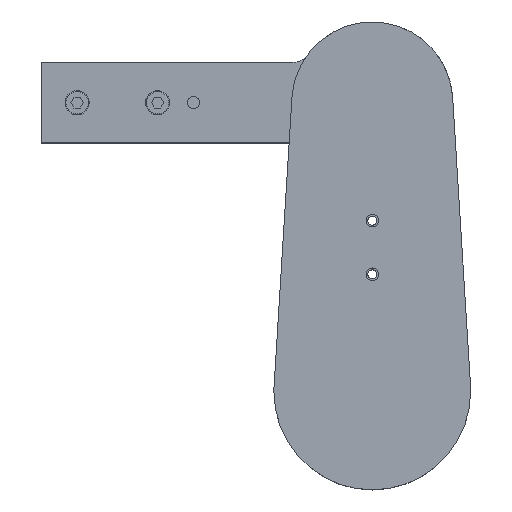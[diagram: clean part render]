
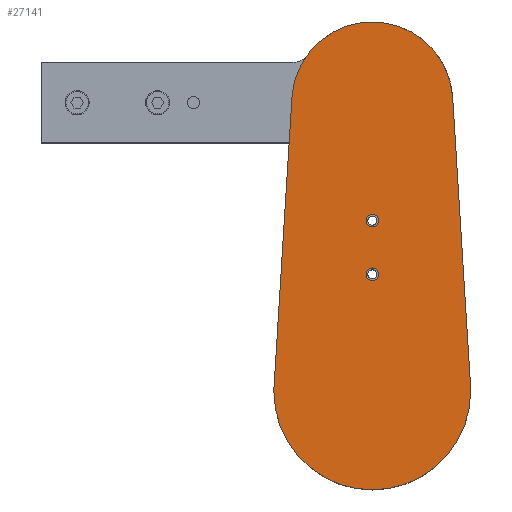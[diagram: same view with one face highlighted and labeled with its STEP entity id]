
A CAD part, top view. The second image highlights one B-rep face of the part: STEP entity #27141.
In plain terms, the highlighted planar face has unit normal (0, 0, 1) as drawn and (0, 0, -1) by its records, which use the part's own axes.
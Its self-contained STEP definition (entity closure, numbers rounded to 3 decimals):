
#15 = CARTESIAN_POINT ( 'NONE',  ( -44.914, 164.286, 0. ) ) ;
#887 = DIRECTION ( 'NONE',  ( 0., 0., -1. ) ) ;
#1385 = ORIENTED_EDGE ( 'NONE', *, *, #25065, .F. ) ;
#2312 = CIRCLE ( 'NONE', #16301, 3.5 ) ;
#2865 = VERTEX_POINT ( 'NONE', #21761 ) ;
#4079 = CARTESIAN_POINT ( 'NONE',  ( 44.914, 164.286, 0. ) ) ;
#4466 = CARTESIAN_POINT ( 'NONE',  ( 44.914, 164.286, 0. ) ) ;
#4780 = EDGE_CURVE ( 'NONE', #29879, #7817, #59197, .T. ) ;
#4783 = ORIENTED_EDGE ( 'NONE', *, *, #49916, .F. ) ;
#5270 = CARTESIAN_POINT ( 'NONE',  ( 55., 0., 0. ) ) ;
#5790 = CARTESIAN_POINT ( 'NONE',  ( -3.5, 95.5, 0. ) ) ;
#5828 = DIRECTION ( 'NONE',  ( 0., 0., 1. ) ) ;
#6813 = CIRCLE ( 'NONE', #27301, 55. ) ;
#7817 = VERTEX_POINT ( 'NONE', #28665 ) ;
#9337 = CIRCLE ( 'NONE', #59512, 3.5 ) ;
#11261 = CARTESIAN_POINT ( 'NONE',  ( 54.894, 3.406, 0. ) ) ;
#11903 = DIRECTION ( 'NONE',  ( 1., 0., 0. ) ) ;
#12197 = ORIENTED_EDGE ( 'NONE', *, *, #55579, .F. ) ;
#15421 = DIRECTION ( 'NONE',  ( 0., 0., 1. ) ) ;
#16301 = AXIS2_PLACEMENT_3D ( 'NONE', #46511, #72358, #21921 ) ;
#16587 = CARTESIAN_POINT ( 'NONE',  ( -3.5, 65.5, 0. ) ) ;
#18939 = DIRECTION ( 'NONE',  ( -0.062, -0.998, 0. ) ) ;
#21047 = DIRECTION ( 'NONE',  ( 0., 0., 1. ) ) ;
#21339 = LINE ( 'NONE', #15, #50969 ) ;
#21442 = DIRECTION ( 'NONE',  ( 1., 0., 0. ) ) ;
#21761 = CARTESIAN_POINT ( 'NONE',  ( -55., 0., 0. ) ) ;
#21921 = DIRECTION ( 'NONE',  ( 1., 0., 0. ) ) ;
#23081 = DIRECTION ( 'NONE',  ( 1., 0., 0. ) ) ;
#24166 = DIRECTION ( 'NONE',  ( 1., 0., 0. ) ) ;
#25065 = EDGE_CURVE ( 'NONE', #36413, #2865, #47355, .T. ) ;
#26591 = VERTEX_POINT ( 'NONE', #5790 ) ;
#26610 = CARTESIAN_POINT ( 'NONE',  ( 0., 0., 0. ) ) ;
#27141 = ADVANCED_FACE ( 'NONE', ( #56885, #53966, #68686 ), #31110, .F. ) ;
#27301 = AXIS2_PLACEMENT_3D ( 'NONE', #26610, #21047, #64895 ) ;
#28246 = AXIS2_PLACEMENT_3D ( 'NONE', #55900, #55353, #24166 ) ;
#28665 = CARTESIAN_POINT ( 'NONE',  ( -44.914, 164.286, 0. ) ) ;
#29128 = CARTESIAN_POINT ( 'NONE',  ( 0., 161.5, 0. ) ) ;
#29879 = VERTEX_POINT ( 'NONE', #4466 ) ;
#31110 = PLANE ( 'NONE',  #41430 ) ;
#31502 = LINE ( 'NONE', #4079, #71907 ) ;
#34599 = AXIS2_PLACEMENT_3D ( 'NONE', #29128, #54988, #48430 ) ;
#35544 = CARTESIAN_POINT ( 'NONE',  ( 0., 95.5, 0. ) ) ;
#36413 = VERTEX_POINT ( 'NONE', #63805 ) ;
#36917 = DIRECTION ( 'NONE',  ( 0., 0., 1. ) ) ;
#39749 = EDGE_LOOP ( 'NONE', ( #61730, #71611, #60346, #40470, #1385, #58690 ) ) ;
#39878 = AXIS2_PLACEMENT_3D ( 'NONE', #44390, #36917, #81062 ) ;
#40470 = ORIENTED_EDGE ( 'NONE', *, *, #66314, .F. ) ;
#41402 = VERTEX_POINT ( 'NONE', #57507 ) ;
#41430 = AXIS2_PLACEMENT_3D ( 'NONE', #74401, #5828, #11903 ) ;
#41775 = CARTESIAN_POINT ( 'NONE',  ( 3.5, 95.5, 0. ) ) ;
#42509 = EDGE_LOOP ( 'NONE', ( #12197, #47475 ) ) ;
#42869 = EDGE_CURVE ( 'NONE', #52219, #26591, #9337, .T. ) ;
#43796 = ORIENTED_EDGE ( 'NONE', *, *, #42869, .F. ) ;
#44390 = CARTESIAN_POINT ( 'NONE',  ( 0., 0., 0. ) ) ;
#44935 = DIRECTION ( 'NONE',  ( 1., 0., 0. ) ) ;
#46475 = CIRCLE ( 'NONE', #39878, 55. ) ;
#46511 = CARTESIAN_POINT ( 'NONE',  ( 0., 95.5, 0. ) ) ;
#47355 = CIRCLE ( 'NONE', #50242, 55. ) ;
#47404 = AXIS2_PLACEMENT_3D ( 'NONE', #51029, #887, #44935 ) ;
#47475 = ORIENTED_EDGE ( 'NONE', *, *, #79292, .F. ) ;
#47620 = EDGE_CURVE ( 'NONE', #55957, #62335, #46475, .T. ) ;
#48430 = DIRECTION ( 'NONE',  ( 1., 0., 0. ) ) ;
#48823 = CIRCLE ( 'NONE', #47404, 3.5 ) ;
#49916 = EDGE_CURVE ( 'NONE', #26591, #52219, #2312, .T. ) ;
#50242 = AXIS2_PLACEMENT_3D ( 'NONE', #78532, #15421, #21442 ) ;
#50969 = VECTOR ( 'NONE', #18939, 1000. ) ;
#51029 = CARTESIAN_POINT ( 'NONE',  ( 0., 65.5, 0. ) ) ;
#52219 = VERTEX_POINT ( 'NONE', #41775 ) ;
#52232 = EDGE_CURVE ( 'NONE', #62335, #29879, #31502, .T. ) ;
#53966 = FACE_BOUND ( 'NONE', #42509, .T. ) ;
#54229 = EDGE_LOOP ( 'NONE', ( #43796, #4783 ) ) ;
#54988 = DIRECTION ( 'NONE',  ( 0., 0., 1. ) ) ;
#55353 = DIRECTION ( 'NONE',  ( 0., 0., -1. ) ) ;
#55579 = EDGE_CURVE ( 'NONE', #41402, #81583, #48823, .T. ) ;
#55900 = CARTESIAN_POINT ( 'NONE',  ( 0., 65.5, 0. ) ) ;
#55957 = VERTEX_POINT ( 'NONE', #5270 ) ;
#56885 = FACE_BOUND ( 'NONE', #54229, .T. ) ;
#57507 = CARTESIAN_POINT ( 'NONE',  ( 3.5, 65.5, 0. ) ) ;
#58690 = ORIENTED_EDGE ( 'NONE', *, *, #70470, .F. ) ;
#59197 = CIRCLE ( 'NONE', #34599, 45. ) ;
#59512 = AXIS2_PLACEMENT_3D ( 'NONE', #35544, #79644, #23081 ) ;
#60346 = ORIENTED_EDGE ( 'NONE', *, *, #47620, .F. ) ;
#61730 = ORIENTED_EDGE ( 'NONE', *, *, #4780, .F. ) ;
#62335 = VERTEX_POINT ( 'NONE', #11261 ) ;
#63805 = CARTESIAN_POINT ( 'NONE',  ( -54.894, 3.406, 0. ) ) ;
#64895 = DIRECTION ( 'NONE',  ( 1., 0., 0. ) ) ;
#66314 = EDGE_CURVE ( 'NONE', #2865, #55957, #6813, .T. ) ;
#68686 = FACE_OUTER_BOUND ( 'NONE', #39749, .T. ) ;
#70470 = EDGE_CURVE ( 'NONE', #7817, #36413, #21339, .T. ) ;
#71611 = ORIENTED_EDGE ( 'NONE', *, *, #52232, .F. ) ;
#71907 = VECTOR ( 'NONE', #73168, 1000. ) ;
#72358 = DIRECTION ( 'NONE',  ( 0., 0., -1. ) ) ;
#73168 = DIRECTION ( 'NONE',  ( -0.062, 0.998, 0. ) ) ;
#74401 = CARTESIAN_POINT ( 'NONE',  ( 0., 161.5, 0. ) ) ;
#76483 = CIRCLE ( 'NONE', #28246, 3.5 ) ;
#78532 = CARTESIAN_POINT ( 'NONE',  ( 0., 0., 0. ) ) ;
#79292 = EDGE_CURVE ( 'NONE', #81583, #41402, #76483, .T. ) ;
#79644 = DIRECTION ( 'NONE',  ( 0., 0., -1. ) ) ;
#81062 = DIRECTION ( 'NONE',  ( 1., 0., 0. ) ) ;
#81583 = VERTEX_POINT ( 'NONE', #16587 ) ;
